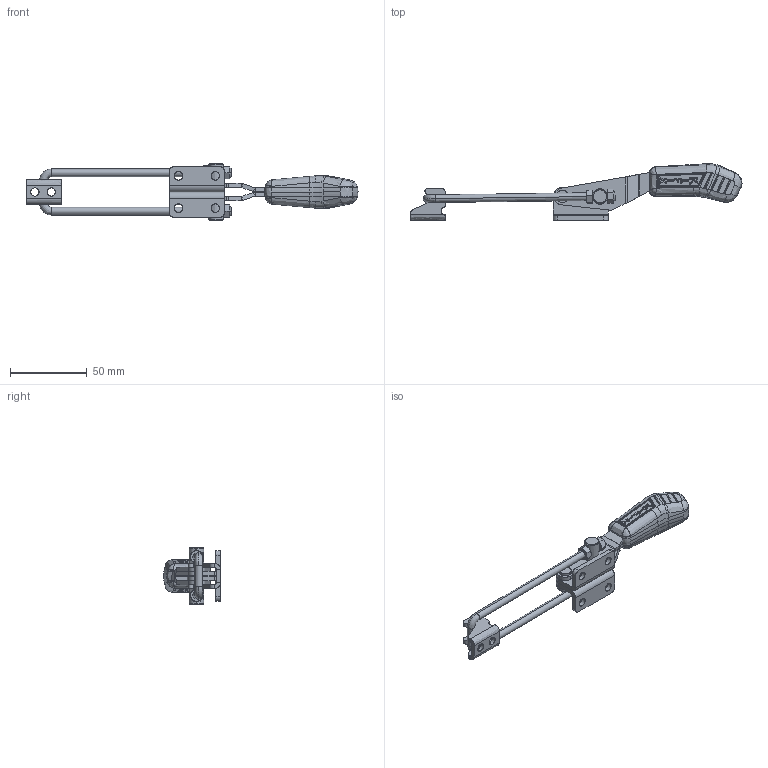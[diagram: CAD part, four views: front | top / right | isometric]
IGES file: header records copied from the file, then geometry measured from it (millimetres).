
Start section: SolidWorks IGES file using analytic representation for surfaces
Global section: file name: C:\Projetos\Grampos\KF-743\KF-743 DL\KF-743 DL.IGS; native system: SolidWorks 2013; preprocessor: SolidWorks 2013; author: Ricardo; date: 140821.134017; units: millimetre
Bounding box: 216.45 x 36.99 x 37 mm (x, y, z)
Surface area: 27149.2 mm2 (no closed solid volume)
Topology: 0 solids, 0 shells, 918 faces, 9061 edges, 9005 vertices
Faces by surface type: bspline 530, revolution 388
